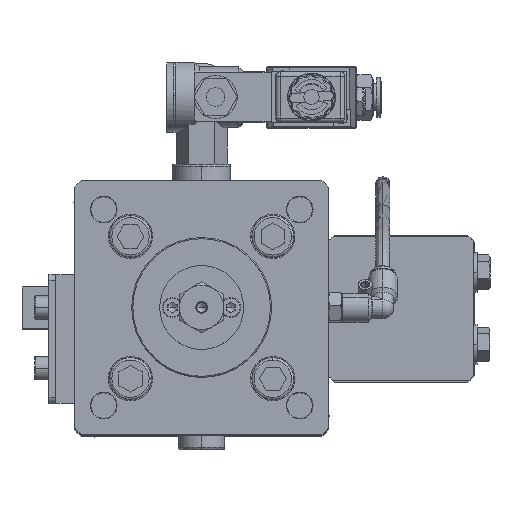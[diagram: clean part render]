
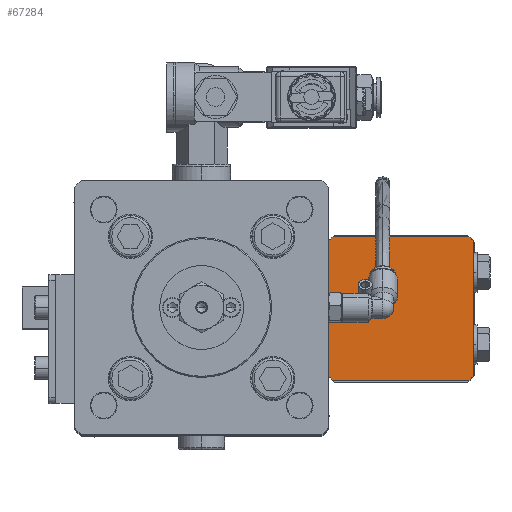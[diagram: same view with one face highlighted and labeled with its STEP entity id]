
A CAD part, top view. The second image highlights one B-rep face of the part: STEP entity #67284.
In plain terms, the highlighted planar face has unit normal (0, 0, 1) as drawn and (0, -1, 0) by its records, which use the part's own axes.
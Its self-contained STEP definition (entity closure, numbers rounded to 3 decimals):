
#851 = DIRECTION ( 'NONE',  ( 0., 0., -1. ) ) ;
#2848 = ORIENTED_EDGE ( 'NONE', *, *, #96864, .T. ) ;
#4133 = VERTEX_POINT ( 'NONE', #84575 ) ;
#4268 = CARTESIAN_POINT ( 'NONE',  ( 0., 0., 0. ) ) ;
#5317 = CARTESIAN_POINT ( 'NONE',  ( 31., 0., -29.073 ) ) ;
#5502 = LINE ( 'NONE', #55818, #24955 ) ;
#5781 = LINE ( 'NONE', #41901, #91575 ) ;
#6586 = EDGE_CURVE ( 'NONE', #88245, #39786, #5781, .T. ) ;
#7587 = CARTESIAN_POINT ( 'NONE',  ( 31., 0., 29.073 ) ) ;
#9753 = AXIS2_PLACEMENT_3D ( 'NONE', #78226, #12067, #70261 ) ;
#11165 = CARTESIAN_POINT ( 'NONE',  ( 0., 0., 0. ) ) ;
#12067 = DIRECTION ( 'NONE',  ( 0., 1., 0. ) ) ;
#12634 = DIRECTION ( 'NONE',  ( 0., 0., 1. ) ) ;
#13079 = DIRECTION ( 'NONE',  ( 0., 0., 1. ) ) ;
#13332 = ORIENTED_EDGE ( 'NONE', *, *, #63823, .T. ) ;
#15341 = LINE ( 'NONE', #37121, #34803 ) ;
#16232 = EDGE_LOOP ( 'NONE', ( #50089, #106278, #2848, #38213, #28040, #38601, #13332, #26617 ) ) ;
#16720 = CARTESIAN_POINT ( 'NONE',  ( -31., 0., -29.073 ) ) ;
#17598 = CIRCLE ( 'NONE', #103854, 42.5 ) ;
#18597 = LINE ( 'NONE', #71278, #40687 ) ;
#19493 = DIRECTION ( 'NONE',  ( 0., 0., 1. ) ) ;
#21438 = CARTESIAN_POINT ( 'NONE',  ( 29.073, 0., -31. ) ) ;
#22690 = AXIS2_PLACEMENT_3D ( 'NONE', #36926, #95056, #45263 ) ;
#22731 = EDGE_CURVE ( 'NONE', #98576, #41216, #17598, .T. ) ;
#24955 = VECTOR ( 'NONE', #31119, 1000. ) ;
#25467 = AXIS2_PLACEMENT_3D ( 'NONE', #4268, #62374, #12634 ) ;
#26538 = CIRCLE ( 'NONE', #96147, 42.5 ) ;
#26617 = ORIENTED_EDGE ( 'NONE', *, *, #41072, .F. ) ;
#28040 = ORIENTED_EDGE ( 'NONE', *, *, #50577, .T. ) ;
#28434 = CIRCLE ( 'NONE', #22690, 42.5 ) ;
#28769 = DIRECTION ( 'NONE',  ( -1., 0., 0. ) ) ;
#31119 = DIRECTION ( 'NONE',  ( 1., 0., 0. ) ) ;
#34608 = EDGE_CURVE ( 'NONE', #51820, #4133, #15341, .T. ) ;
#34803 = VECTOR ( 'NONE', #28769, 1000. ) ;
#36503 = FACE_OUTER_BOUND ( 'NONE', #16232, .T. ) ;
#36926 = CARTESIAN_POINT ( 'NONE',  ( 0., 0., 0. ) ) ;
#37121 = CARTESIAN_POINT ( 'NONE',  ( -31., 0., -31. ) ) ;
#38213 = ORIENTED_EDGE ( 'NONE', *, *, #34608, .F. ) ;
#38601 = ORIENTED_EDGE ( 'NONE', *, *, #6586, .F. ) ;
#39786 = VERTEX_POINT ( 'NONE', #5317 ) ;
#40687 = VECTOR ( 'NONE', #13079, 1000. ) ;
#41072 = EDGE_CURVE ( 'NONE', #98576, #66657, #5502, .T. ) ;
#41216 = VERTEX_POINT ( 'NONE', #42385 ) ;
#41901 = CARTESIAN_POINT ( 'NONE',  ( 31., 0., -31. ) ) ;
#42385 = CARTESIAN_POINT ( 'NONE',  ( -31., 0., 29.073 ) ) ;
#45263 = DIRECTION ( 'NONE',  ( 0., 0., 1. ) ) ;
#47312 = CARTESIAN_POINT ( 'NONE',  ( 0., 0., 0. ) ) ;
#50089 = ORIENTED_EDGE ( 'NONE', *, *, #22731, .T. ) ;
#50577 = EDGE_CURVE ( 'NONE', #51820, #39786, #28434, .T. ) ;
#51820 = VERTEX_POINT ( 'NONE', #21438 ) ;
#53448 = PLANE ( 'NONE',  #9753 ) ;
#55706 = DIRECTION ( 'NONE',  ( 0., 0., 1. ) ) ;
#55818 = CARTESIAN_POINT ( 'NONE',  ( -31., 0., 31. ) ) ;
#56297 = CIRCLE ( 'NONE', #25467, 42.5 ) ;
#62374 = DIRECTION ( 'NONE',  ( 0., -1., 0. ) ) ;
#63349 = CARTESIAN_POINT ( 'NONE',  ( -29.073, 0., 31. ) ) ;
#63823 = EDGE_CURVE ( 'NONE', #88245, #66657, #56297, .T. ) ;
#66657 = VERTEX_POINT ( 'NONE', #79978 ) ;
#67284 = ADVANCED_FACE ( 'NONE', ( #36503 ), #53448, .F. ) ;
#69317 = DIRECTION ( 'NONE',  ( 0., -1., 0. ) ) ;
#70261 = DIRECTION ( 'NONE',  ( 0., 0., 1. ) ) ;
#71278 = CARTESIAN_POINT ( 'NONE',  ( -31., 0., -31. ) ) ;
#78226 = CARTESIAN_POINT ( 'NONE',  ( 0., 0., 0. ) ) ;
#79978 = CARTESIAN_POINT ( 'NONE',  ( 29.073, 0., 31. ) ) ;
#84575 = CARTESIAN_POINT ( 'NONE',  ( -29.073, 0., -31. ) ) ;
#88245 = VERTEX_POINT ( 'NONE', #7587 ) ;
#90719 = EDGE_CURVE ( 'NONE', #99224, #41216, #18597, .T. ) ;
#91575 = VECTOR ( 'NONE', #851, 1000. ) ;
#95056 = DIRECTION ( 'NONE',  ( 0., -1., 0. ) ) ;
#96147 = AXIS2_PLACEMENT_3D ( 'NONE', #47312, #105513, #55706 ) ;
#96864 = EDGE_CURVE ( 'NONE', #99224, #4133, #26538, .T. ) ;
#98576 = VERTEX_POINT ( 'NONE', #63349 ) ;
#99224 = VERTEX_POINT ( 'NONE', #16720 ) ;
#103854 = AXIS2_PLACEMENT_3D ( 'NONE', #11165, #69317, #19493 ) ;
#105513 = DIRECTION ( 'NONE',  ( 0., -1., 0. ) ) ;
#106278 = ORIENTED_EDGE ( 'NONE', *, *, #90719, .F. ) ;
